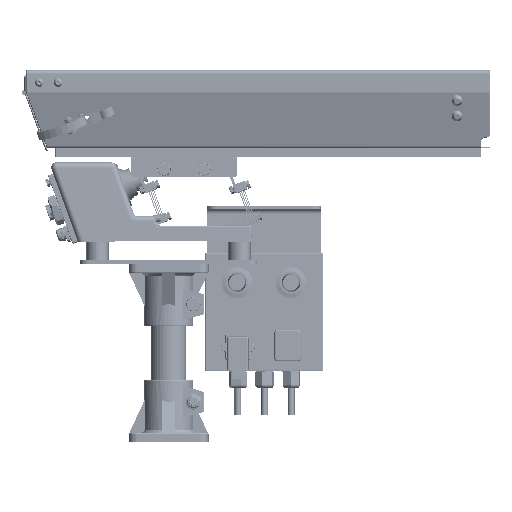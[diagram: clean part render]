
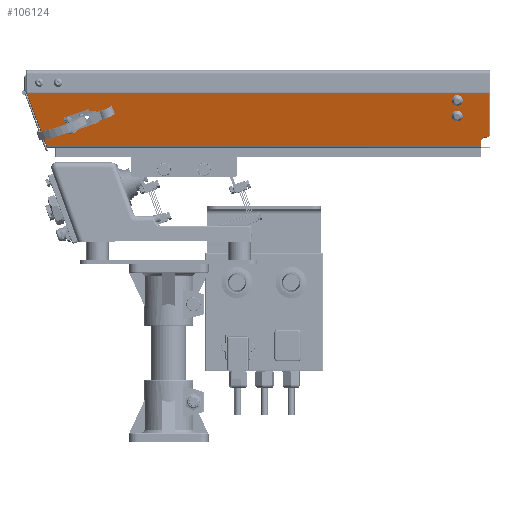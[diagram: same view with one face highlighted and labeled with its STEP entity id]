
A CAD part, front view. The second image highlights one B-rep face of the part: STEP entity #106124.
In plain terms, the highlighted planar face has unit normal (0, -0.966, -0.259).
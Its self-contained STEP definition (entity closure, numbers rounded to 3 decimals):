
#838 = DIRECTION ( 'NONE',  ( 0., 0.259, -0.966 ) ) ;
#877 = AXIS2_PLACEMENT_3D ( 'NONE', #82988, #110445, #73010 ) ;
#1442 = CARTESIAN_POINT ( 'NONE',  ( -204.075, -40.895, 32.934 ) ) ;
#1470 = CIRCLE ( 'NONE', #9453, 3. ) ;
#3082 = EDGE_LOOP ( 'NONE', ( #108828, #37284 ) ) ;
#5471 = DIRECTION ( 'NONE',  ( 0., -0.966, -0.259 ) ) ;
#6592 = CIRCLE ( 'NONE', #78166, 2.3 ) ;
#6720 = AXIS2_PLACEMENT_3D ( 'NONE', #122965, #121143, #37516 ) ;
#7281 = VERTEX_POINT ( 'NONE', #68736 ) ;
#7953 = VERTEX_POINT ( 'NONE', #121564 ) ;
#9453 = AXIS2_PLACEMENT_3D ( 'NONE', #64711, #5471, #72783 ) ;
#10847 = CIRCLE ( 'NONE', #877, 2.25 ) ;
#11903 = CARTESIAN_POINT ( 'NONE',  ( 213., -45.184, 48.94 ) ) ;
#11942 = ORIENTED_EDGE ( 'NONE', *, *, #122466, .T. ) ;
#12773 = DIRECTION ( 'NONE',  ( 0., 0.259, -0.966 ) ) ;
#13147 = EDGE_CURVE ( 'NONE', #31251, #92580, #101003, .T. ) ;
#13485 = VERTEX_POINT ( 'NONE', #94912 ) ;
#13611 = CARTESIAN_POINT ( 'NONE',  ( 0., -29.922, -8.018 ) ) ;
#13616 = VECTOR ( 'NONE', #91470, 1000. ) ;
#14249 = CIRCLE ( 'NONE', #72013, 3. ) ;
#19992 = VERTEX_POINT ( 'NONE', #106785 ) ;
#20671 = CARTESIAN_POINT ( 'NONE',  ( 213., -45.96, 51.838 ) ) ;
#21126 = DIRECTION ( 'NONE',  ( 0., -0.259, 0.966 ) ) ;
#21220 = EDGE_LOOP ( 'NONE', ( #101540, #94386 ) ) ;
#22755 = VERTEX_POINT ( 'NONE', #25629 ) ;
#23238 = DIRECTION ( 'NONE',  ( 0.342, 0.243, -0.908 ) ) ;
#24200 = FACE_BOUND ( 'NONE', #107032, .T. ) ;
#25214 = EDGE_CURVE ( 'NONE', #19992, #88504, #36464, .T. ) ;
#25629 = CARTESIAN_POINT ( 'NONE',  ( 213., -42.078, 37.349 ) ) ;
#26680 = DIRECTION ( 'NONE',  ( 0., -0.966, -0.259 ) ) ;
#27288 = CARTESIAN_POINT ( 'NONE',  ( 247., -35.527, 12.898 ) ) ;
#29870 = CARTESIAN_POINT ( 'NONE',  ( 239.3, -33.456, 5.17 ) ) ;
#30763 = CARTESIAN_POINT ( 'NONE',  ( 247., -34.931, 10.676 ) ) ;
#30846 = CARTESIAN_POINT ( 'NONE',  ( 213., -45.96, 51.838 ) ) ;
#31251 = VERTEX_POINT ( 'NONE', #51269 ) ;
#31719 = EDGE_LOOP ( 'NONE', ( #33008, #53125 ) ) ;
#33008 = ORIENTED_EDGE ( 'NONE', *, *, #83139, .F. ) ;
#33021 = VECTOR ( 'NONE', #23238, 1000. ) ;
#34514 = CIRCLE ( 'NONE', #6720, 5.7 ) ;
#36464 = LINE ( 'NONE', #112554, #118622 ) ;
#37284 = ORIENTED_EDGE ( 'NONE', *, *, #114166, .F. ) ;
#37516 = DIRECTION ( 'NONE',  ( 0., -0.259, 0.966 ) ) ;
#38330 = EDGE_CURVE ( 'NONE', #79703, #7281, #92356, .T. ) ;
#40952 = ORIENTED_EDGE ( 'NONE', *, *, #94598, .T. ) ;
#41448 = EDGE_CURVE ( 'NONE', #43749, #22755, #122419, .T. ) ;
#41660 = FACE_BOUND ( 'NONE', #31719, .T. ) ;
#42289 = CARTESIAN_POINT ( 'NONE',  ( 249.3, -29.922, -8.018 ) ) ;
#42565 = CARTESIAN_POINT ( 'NONE',  ( -217.602, -9.424, -84.52 ) ) ;
#42821 = CARTESIAN_POINT ( 'NONE',  ( 239.3, -32.329, 0.965 ) ) ;
#43749 = VERTEX_POINT ( 'NONE', #106602 ) ;
#47656 = DIRECTION ( 'NONE',  ( 0., -0.966, -0.259 ) ) ;
#48208 = AXIS2_PLACEMENT_3D ( 'NONE', #110718, #47656, #63982 ) ;
#48424 = EDGE_CURVE ( 'NONE', #22755, #43749, #1470, .T. ) ;
#49238 = VERTEX_POINT ( 'NONE', #11903 ) ;
#49887 = VERTEX_POINT ( 'NONE', #65659 ) ;
#50717 = AXIS2_PLACEMENT_3D ( 'NONE', #55671, #74976, #63200 ) ;
#50997 = EDGE_LOOP ( 'NONE', ( #54014, #88284, #82921, #56887, #56693, #57063, #40952, #11942 ) ) ;
#51020 = PLANE ( 'NONE',  #93155 ) ;
#51196 = DIRECTION ( 'NONE',  ( 0., -0.966, -0.259 ) ) ;
#51269 = CARTESIAN_POINT ( 'NONE',  ( -204.075, -40.313, 30.761 ) ) ;
#52045 = DIRECTION ( 'NONE',  ( 0., -0.966, -0.259 ) ) ;
#52649 = EDGE_CURVE ( 'NONE', #53544, #62641, #59814, .T. ) ;
#53125 = ORIENTED_EDGE ( 'NONE', *, *, #79593, .F. ) ;
#53544 = VERTEX_POINT ( 'NONE', #104778 ) ;
#54014 = ORIENTED_EDGE ( 'NONE', *, *, #57523, .F. ) ;
#54775 = DIRECTION ( 'NONE',  ( 0., -0.966, -0.259 ) ) ;
#55019 = CARTESIAN_POINT ( 'NONE',  ( 249.3, -48.29, 60.531 ) ) ;
#55671 = CARTESIAN_POINT ( 'NONE',  ( 213., -41.302, 34.451 ) ) ;
#55735 = EDGE_CURVE ( 'NONE', #7281, #79703, #10847, .T. ) ;
#56693 = ORIENTED_EDGE ( 'NONE', *, *, #114806, .T. ) ;
#56887 = ORIENTED_EDGE ( 'NONE', *, *, #25214, .T. ) ;
#57063 = ORIENTED_EDGE ( 'NONE', *, *, #52649, .T. ) ;
#57220 = DIRECTION ( 'NONE',  ( 0., -0.259, 0.966 ) ) ;
#57282 = DIRECTION ( 'NONE',  ( -1., 0., 0. ) ) ;
#57523 = EDGE_CURVE ( 'NONE', #74073, #68363, #102060, .T. ) ;
#59814 = LINE ( 'NONE', #42289, #115578 ) ;
#59963 = DIRECTION ( 'NONE',  ( 0., 0.259, -0.966 ) ) ;
#60414 = FACE_OUTER_BOUND ( 'NONE', #50997, .T. ) ;
#62577 = LINE ( 'NONE', #42565, #33021 ) ;
#62593 = EDGE_CURVE ( 'NONE', #49887, #19992, #34514, .T. ) ;
#62641 = VERTEX_POINT ( 'NONE', #55019 ) ;
#63200 = DIRECTION ( 'NONE',  ( 0., 0.259, -0.966 ) ) ;
#63982 = DIRECTION ( 'NONE',  ( 0., 0.259, -0.966 ) ) ;
#64711 = CARTESIAN_POINT ( 'NONE',  ( 213., -41.302, 34.451 ) ) ;
#65659 = CARTESIAN_POINT ( 'NONE',  ( 239.3, -33.456, 5.17 ) ) ;
#65783 = DIRECTION ( 'NONE',  ( 1., 0., 0. ) ) ;
#68363 = VERTEX_POINT ( 'NONE', #79738 ) ;
#68736 = CARTESIAN_POINT ( 'NONE',  ( -217.261, -39.095, 26.215 ) ) ;
#72013 = AXIS2_PLACEMENT_3D ( 'NONE', #20671, #51196, #59963 ) ;
#72783 = DIRECTION ( 'NONE',  ( 0., 0.259, -0.966 ) ) ;
#73010 = DIRECTION ( 'NONE',  ( 0., 0.259, -0.966 ) ) ;
#74073 = VERTEX_POINT ( 'NONE', #42821 ) ;
#74740 = CARTESIAN_POINT ( 'NONE',  ( 250., -48.29, 60.531 ) ) ;
#74976 = DIRECTION ( 'NONE',  ( 0., -0.966, -0.259 ) ) ;
#76268 = AXIS2_PLACEMENT_3D ( 'NONE', #30846, #52045, #12773 ) ;
#78166 = AXIS2_PLACEMENT_3D ( 'NONE', #27288, #26680, #57220 ) ;
#79593 = EDGE_CURVE ( 'NONE', #13485, #49238, #100145, .T. ) ;
#79703 = VERTEX_POINT ( 'NONE', #121268 ) ;
#79738 = CARTESIAN_POINT ( 'NONE',  ( -249.814, -32.329, 0.965 ) ) ;
#80623 = VECTOR ( 'NONE', #86627, 1000. ) ;
#81470 = CARTESIAN_POINT ( 'NONE',  ( 0., -32.329, 0.965 ) ) ;
#82921 = ORIENTED_EDGE ( 'NONE', *, *, #62593, .T. ) ;
#82988 = CARTESIAN_POINT ( 'NONE',  ( -217.261, -39.677, 28.389 ) ) ;
#83139 = EDGE_CURVE ( 'NONE', #49238, #13485, #14249, .T. ) ;
#84803 = LINE ( 'NONE', #29870, #80623 ) ;
#86627 = DIRECTION ( 'NONE',  ( 0., -0.259, 0.966 ) ) ;
#86974 = EDGE_CURVE ( 'NONE', #74073, #49887, #84803, .T. ) ;
#87415 = CARTESIAN_POINT ( 'NONE',  ( -204.075, -41.478, 35.107 ) ) ;
#88284 = ORIENTED_EDGE ( 'NONE', *, *, #86974, .T. ) ;
#88504 = VERTEX_POINT ( 'NONE', #30763 ) ;
#89073 = DIRECTION ( 'NONE',  ( 0., 0.966, 0.259 ) ) ;
#91470 = DIRECTION ( 'NONE',  ( -1., 0., 0. ) ) ;
#92202 = CARTESIAN_POINT ( 'NONE',  ( -217.261, -39.677, 28.389 ) ) ;
#92356 = CIRCLE ( 'NONE', #96246, 2.25 ) ;
#92580 = VERTEX_POINT ( 'NONE', #87415 ) ;
#93155 = AXIS2_PLACEMENT_3D ( 'NONE', #13611, #89073, #109023 ) ;
#94386 = ORIENTED_EDGE ( 'NONE', *, *, #48424, .F. ) ;
#94598 = EDGE_CURVE ( 'NONE', #62641, #7953, #113986, .T. ) ;
#94912 = CARTESIAN_POINT ( 'NONE',  ( 213., -46.737, 54.735 ) ) ;
#95974 = ORIENTED_EDGE ( 'NONE', *, *, #55735, .F. ) ;
#96044 = CIRCLE ( 'NONE', #48208, 2.25 ) ;
#96246 = AXIS2_PLACEMENT_3D ( 'NONE', #92202, #54775, #102166 ) ;
#100145 = CIRCLE ( 'NONE', #76268, 3. ) ;
#101003 = CIRCLE ( 'NONE', #114850, 2.25 ) ;
#101540 = ORIENTED_EDGE ( 'NONE', *, *, #41448, .F. ) ;
#102060 = LINE ( 'NONE', #81470, #13616 ) ;
#102166 = DIRECTION ( 'NONE',  ( 0., 0.259, -0.966 ) ) ;
#104778 = CARTESIAN_POINT ( 'NONE',  ( 249.3, -35.527, 12.898 ) ) ;
#105620 = DIRECTION ( 'NONE',  ( 0., -0.966, -0.259 ) ) ;
#105636 = ORIENTED_EDGE ( 'NONE', *, *, #38330, .F. ) ;
#106124 = ADVANCED_FACE ( 'NONE', ( #119615, #24200, #117136, #41660, #60414 ), #51020, .F. ) ;
#106602 = CARTESIAN_POINT ( 'NONE',  ( 213., -40.525, 31.553 ) ) ;
#106785 = CARTESIAN_POINT ( 'NONE',  ( 245., -34.931, 10.676 ) ) ;
#107032 = EDGE_LOOP ( 'NONE', ( #95974, #105636 ) ) ;
#108828 = ORIENTED_EDGE ( 'NONE', *, *, #13147, .F. ) ;
#109023 = DIRECTION ( 'NONE',  ( 0., -0.259, 0.966 ) ) ;
#110416 = VECTOR ( 'NONE', #57282, 1000. ) ;
#110445 = DIRECTION ( 'NONE',  ( 0., -0.966, -0.259 ) ) ;
#110718 = CARTESIAN_POINT ( 'NONE',  ( -204.075, -40.895, 32.934 ) ) ;
#112554 = CARTESIAN_POINT ( 'NONE',  ( 247., -34.931, 10.676 ) ) ;
#113986 = LINE ( 'NONE', #74740, #110416 ) ;
#114166 = EDGE_CURVE ( 'NONE', #92580, #31251, #96044, .T. ) ;
#114806 = EDGE_CURVE ( 'NONE', #88504, #53544, #6592, .T. ) ;
#114850 = AXIS2_PLACEMENT_3D ( 'NONE', #1442, #105620, #838 ) ;
#115578 = VECTOR ( 'NONE', #21126, 1000. ) ;
#117136 = FACE_BOUND ( 'NONE', #21220, .T. ) ;
#118622 = VECTOR ( 'NONE', #65783, 1000. ) ;
#119615 = FACE_BOUND ( 'NONE', #3082, .T. ) ;
#121143 = DIRECTION ( 'NONE',  ( 0., 0.966, 0.259 ) ) ;
#121268 = CARTESIAN_POINT ( 'NONE',  ( -217.261, -40.26, 30.562 ) ) ;
#121564 = CARTESIAN_POINT ( 'NONE',  ( -272.259, -48.29, 60.531 ) ) ;
#122419 = CIRCLE ( 'NONE', #50717, 3. ) ;
#122466 = EDGE_CURVE ( 'NONE', #7953, #68363, #62577, .T. ) ;
#122965 = CARTESIAN_POINT ( 'NONE',  ( 245., -33.456, 5.17 ) ) ;
